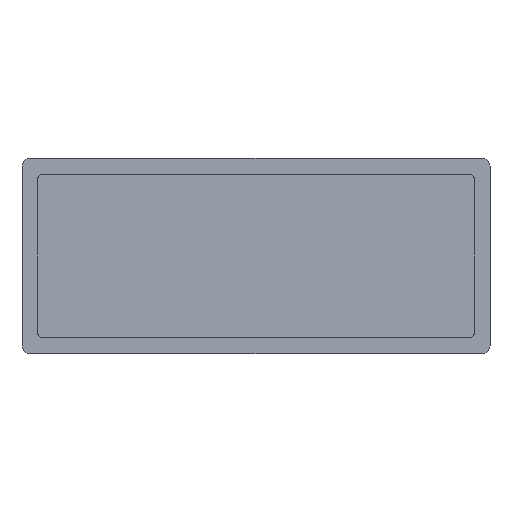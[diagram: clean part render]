
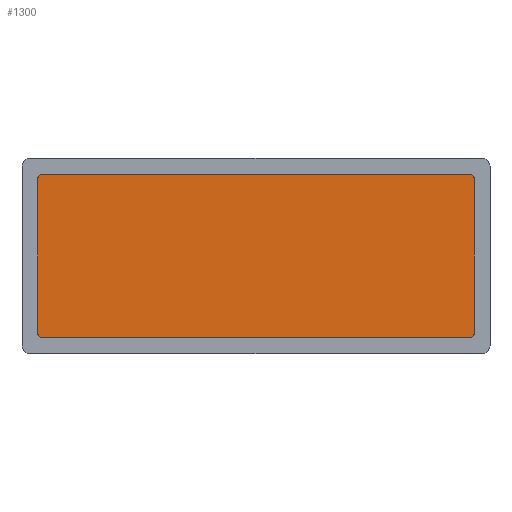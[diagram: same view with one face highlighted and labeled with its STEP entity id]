
A CAD part, left-side view. The second image highlights one B-rep face of the part: STEP entity #1300.
In plain terms, the highlighted planar face has unit normal (-1, 0, 0).
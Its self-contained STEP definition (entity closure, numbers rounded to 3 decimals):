
#355 = CYLINDRICAL_SURFACE('',#356,0.75);
#356 = AXIS2_PLACEMENT_3D('',#357,#358,#359);
#357 = CARTESIAN_POINT('',(-3.4,27.25,5.25));
#358 = DIRECTION('',(1.,0.,0.));
#359 = DIRECTION('',(0.,0.,-1.));
#382 = PLANE('',#383);
#383 = AXIS2_PLACEMENT_3D('',#384,#385,#386);
#384 = CARTESIAN_POINT('',(-3.4,-28.,4.5));
#385 = DIRECTION('',(0.,0.,1.));
#386 = DIRECTION('',(0.,1.,0.));
#410 = CYLINDRICAL_SURFACE('',#411,0.75);
#411 = AXIS2_PLACEMENT_3D('',#412,#413,#414);
#412 = CARTESIAN_POINT('',(-3.4,-27.25,5.25));
#413 = DIRECTION('',(1.,0.,0.));
#414 = DIRECTION('',(0.,0.,-1.));
#437 = PLANE('',#438);
#438 = AXIS2_PLACEMENT_3D('',#439,#440,#441);
#439 = CARTESIAN_POINT('',(-3.4,-28.,25.5));
#440 = DIRECTION('',(-0.,1.,0.));
#441 = DIRECTION('',(0.,0.,-1.));
#465 = CYLINDRICAL_SURFACE('',#466,0.75);
#466 = AXIS2_PLACEMENT_3D('',#467,#468,#469);
#467 = CARTESIAN_POINT('',(-3.4,-27.25,24.75));
#468 = DIRECTION('',(1.,0.,0.));
#469 = DIRECTION('',(0.,-0.,1.));
#492 = PLANE('',#493);
#493 = AXIS2_PLACEMENT_3D('',#494,#495,#496);
#494 = CARTESIAN_POINT('',(-3.4,28.,25.5));
#495 = DIRECTION('',(0.,0.,-1.));
#496 = DIRECTION('',(0.,-1.,0.));
#520 = CYLINDRICAL_SURFACE('',#521,0.75);
#521 = AXIS2_PLACEMENT_3D('',#522,#523,#524);
#522 = CARTESIAN_POINT('',(-3.4,27.25,24.75));
#523 = DIRECTION('',(1.,0.,0.));
#524 = DIRECTION('',(-0.,1.,0.));
#545 = PLANE('',#546);
#546 = AXIS2_PLACEMENT_3D('',#547,#548,#549);
#547 = CARTESIAN_POINT('',(-3.4,28.,4.5));
#548 = DIRECTION('',(0.,-1.,0.));
#549 = DIRECTION('',(0.,0.,1.));
#900 = VERTEX_POINT('',#901);
#901 = CARTESIAN_POINT('',(-2.5,27.25,4.5));
#924 = VERTEX_POINT('',#925);
#925 = CARTESIAN_POINT('',(-2.5,28.,5.25));
#946 = EDGE_CURVE('',#900,#924,#947,.T.);
#947 = SURFACE_CURVE('',#948,(#953,#960),.PCURVE_S1.);
#948 = CIRCLE('',#949,0.75);
#949 = AXIS2_PLACEMENT_3D('',#950,#951,#952);
#950 = CARTESIAN_POINT('',(-2.5,27.25,5.25));
#951 = DIRECTION('',(1.,0.,0.));
#952 = DIRECTION('',(-0.,0.,1.));
#953 = PCURVE('',#355,#954);
#954 = DEFINITIONAL_REPRESENTATION('',(#955),#959);
#955 = LINE('',#956,#957);
#956 = CARTESIAN_POINT('',(-3.142,0.9));
#957 = VECTOR('',#958,1.);
#958 = DIRECTION('',(1.,0.));
#959 = ( GEOMETRIC_REPRESENTATION_CONTEXT(2) 
PARAMETRIC_REPRESENTATION_CONTEXT() REPRESENTATION_CONTEXT('2D SPACE',''
  ) );
#960 = PCURVE('',#961,#966);
#961 = PLANE('',#962);
#962 = AXIS2_PLACEMENT_3D('',#963,#964,#965);
#963 = CARTESIAN_POINT('',(-2.5,0.,15.));
#964 = DIRECTION('',(1.,0.,0.));
#965 = DIRECTION('',(-0.,0.,1.));
#966 = DEFINITIONAL_REPRESENTATION('',(#967),#971);
#967 = CIRCLE('',#968,0.75);
#968 = AXIS2_PLACEMENT_2D('',#969,#970);
#969 = CARTESIAN_POINT('',(-9.75,-27.25));
#970 = DIRECTION('',(1.,0.));
#971 = ( GEOMETRIC_REPRESENTATION_CONTEXT(2) 
PARAMETRIC_REPRESENTATION_CONTEXT() REPRESENTATION_CONTEXT('2D SPACE',''
  ) );
#978 = EDGE_CURVE('',#924,#979,#981,.T.);
#979 = VERTEX_POINT('',#980);
#980 = CARTESIAN_POINT('',(-2.5,28.,24.75));
#981 = SURFACE_CURVE('',#982,(#986,#993),.PCURVE_S1.);
#982 = LINE('',#983,#984);
#983 = CARTESIAN_POINT('',(-2.5,28.,4.5));
#984 = VECTOR('',#985,1.);
#985 = DIRECTION('',(0.,0.,1.));
#986 = PCURVE('',#545,#987);
#987 = DEFINITIONAL_REPRESENTATION('',(#988),#992);
#988 = LINE('',#989,#990);
#989 = CARTESIAN_POINT('',(0.,-0.9));
#990 = VECTOR('',#991,1.);
#991 = DIRECTION('',(1.,0.));
#992 = ( GEOMETRIC_REPRESENTATION_CONTEXT(2) 
PARAMETRIC_REPRESENTATION_CONTEXT() REPRESENTATION_CONTEXT('2D SPACE',''
  ) );
#993 = PCURVE('',#961,#994);
#994 = DEFINITIONAL_REPRESENTATION('',(#995),#999);
#995 = LINE('',#996,#997);
#996 = CARTESIAN_POINT('',(-10.5,-28.));
#997 = VECTOR('',#998,1.);
#998 = DIRECTION('',(1.,0.));
#999 = ( GEOMETRIC_REPRESENTATION_CONTEXT(2) 
PARAMETRIC_REPRESENTATION_CONTEXT() REPRESENTATION_CONTEXT('2D SPACE',''
  ) );
#1028 = VERTEX_POINT('',#1029);
#1029 = CARTESIAN_POINT('',(-2.5,27.25,25.5));
#1050 = EDGE_CURVE('',#979,#1028,#1051,.T.);
#1051 = SURFACE_CURVE('',#1052,(#1057,#1064),.PCURVE_S1.);
#1052 = CIRCLE('',#1053,0.75);
#1053 = AXIS2_PLACEMENT_3D('',#1054,#1055,#1056);
#1054 = CARTESIAN_POINT('',(-2.5,27.25,24.75));
#1055 = DIRECTION('',(1.,0.,0.));
#1056 = DIRECTION('',(-0.,0.,1.));
#1057 = PCURVE('',#520,#1058);
#1058 = DEFINITIONAL_REPRESENTATION('',(#1059),#1063);
#1059 = LINE('',#1060,#1061);
#1060 = CARTESIAN_POINT('',(-4.712,0.9));
#1061 = VECTOR('',#1062,1.);
#1062 = DIRECTION('',(1.,0.));
#1063 = ( GEOMETRIC_REPRESENTATION_CONTEXT(2) 
PARAMETRIC_REPRESENTATION_CONTEXT() REPRESENTATION_CONTEXT('2D SPACE',''
  ) );
#1064 = PCURVE('',#961,#1065);
#1065 = DEFINITIONAL_REPRESENTATION('',(#1066),#1070);
#1066 = CIRCLE('',#1067,0.75);
#1067 = AXIS2_PLACEMENT_2D('',#1068,#1069);
#1068 = CARTESIAN_POINT('',(9.75,-27.25));
#1069 = DIRECTION('',(1.,0.));
#1070 = ( GEOMETRIC_REPRESENTATION_CONTEXT(2) 
PARAMETRIC_REPRESENTATION_CONTEXT() REPRESENTATION_CONTEXT('2D SPACE',''
  ) );
#1077 = EDGE_CURVE('',#1028,#1078,#1080,.T.);
#1078 = VERTEX_POINT('',#1079);
#1079 = CARTESIAN_POINT('',(-2.5,-27.25,25.5));
#1080 = SURFACE_CURVE('',#1081,(#1085,#1092),.PCURVE_S1.);
#1081 = LINE('',#1082,#1083);
#1082 = CARTESIAN_POINT('',(-2.5,28.,25.5));
#1083 = VECTOR('',#1084,1.);
#1084 = DIRECTION('',(0.,-1.,0.));
#1085 = PCURVE('',#492,#1086);
#1086 = DEFINITIONAL_REPRESENTATION('',(#1087),#1091);
#1087 = LINE('',#1088,#1089);
#1088 = CARTESIAN_POINT('',(0.,-0.9));
#1089 = VECTOR('',#1090,1.);
#1090 = DIRECTION('',(1.,0.));
#1091 = ( GEOMETRIC_REPRESENTATION_CONTEXT(2) 
PARAMETRIC_REPRESENTATION_CONTEXT() REPRESENTATION_CONTEXT('2D SPACE',''
  ) );
#1092 = PCURVE('',#961,#1093);
#1093 = DEFINITIONAL_REPRESENTATION('',(#1094),#1098);
#1094 = LINE('',#1095,#1096);
#1095 = CARTESIAN_POINT('',(10.5,-28.));
#1096 = VECTOR('',#1097,1.);
#1097 = DIRECTION('',(0.,1.));
#1098 = ( GEOMETRIC_REPRESENTATION_CONTEXT(2) 
PARAMETRIC_REPRESENTATION_CONTEXT() REPRESENTATION_CONTEXT('2D SPACE',''
  ) );
#1127 = VERTEX_POINT('',#1128);
#1128 = CARTESIAN_POINT('',(-2.5,-28.,24.75));
#1149 = EDGE_CURVE('',#1078,#1127,#1150,.T.);
#1150 = SURFACE_CURVE('',#1151,(#1156,#1163),.PCURVE_S1.);
#1151 = CIRCLE('',#1152,0.75);
#1152 = AXIS2_PLACEMENT_3D('',#1153,#1154,#1155);
#1153 = CARTESIAN_POINT('',(-2.5,-27.25,24.75));
#1154 = DIRECTION('',(1.,0.,0.));
#1155 = DIRECTION('',(-0.,0.,1.));
#1156 = PCURVE('',#465,#1157);
#1157 = DEFINITIONAL_REPRESENTATION('',(#1158),#1162);
#1158 = LINE('',#1159,#1160);
#1159 = CARTESIAN_POINT('',(0.,0.9));
#1160 = VECTOR('',#1161,1.);
#1161 = DIRECTION('',(1.,0.));
#1162 = ( GEOMETRIC_REPRESENTATION_CONTEXT(2) 
PARAMETRIC_REPRESENTATION_CONTEXT() REPRESENTATION_CONTEXT('2D SPACE',''
  ) );
#1163 = PCURVE('',#961,#1164);
#1164 = DEFINITIONAL_REPRESENTATION('',(#1165),#1169);
#1165 = CIRCLE('',#1166,0.75);
#1166 = AXIS2_PLACEMENT_2D('',#1167,#1168);
#1167 = CARTESIAN_POINT('',(9.75,27.25));
#1168 = DIRECTION('',(1.,0.));
#1169 = ( GEOMETRIC_REPRESENTATION_CONTEXT(2) 
PARAMETRIC_REPRESENTATION_CONTEXT() REPRESENTATION_CONTEXT('2D SPACE',''
  ) );
#1176 = EDGE_CURVE('',#1127,#1177,#1179,.T.);
#1177 = VERTEX_POINT('',#1178);
#1178 = CARTESIAN_POINT('',(-2.5,-28.,5.25));
#1179 = SURFACE_CURVE('',#1180,(#1184,#1191),.PCURVE_S1.);
#1180 = LINE('',#1181,#1182);
#1181 = CARTESIAN_POINT('',(-2.5,-28.,25.5));
#1182 = VECTOR('',#1183,1.);
#1183 = DIRECTION('',(0.,0.,-1.));
#1184 = PCURVE('',#437,#1185);
#1185 = DEFINITIONAL_REPRESENTATION('',(#1186),#1190);
#1186 = LINE('',#1187,#1188);
#1187 = CARTESIAN_POINT('',(0.,-0.9));
#1188 = VECTOR('',#1189,1.);
#1189 = DIRECTION('',(1.,0.));
#1190 = ( GEOMETRIC_REPRESENTATION_CONTEXT(2) 
PARAMETRIC_REPRESENTATION_CONTEXT() REPRESENTATION_CONTEXT('2D SPACE',''
  ) );
#1191 = PCURVE('',#961,#1192);
#1192 = DEFINITIONAL_REPRESENTATION('',(#1193),#1197);
#1193 = LINE('',#1194,#1195);
#1194 = CARTESIAN_POINT('',(10.5,28.));
#1195 = VECTOR('',#1196,1.);
#1196 = DIRECTION('',(-1.,0.));
#1197 = ( GEOMETRIC_REPRESENTATION_CONTEXT(2) 
PARAMETRIC_REPRESENTATION_CONTEXT() REPRESENTATION_CONTEXT('2D SPACE',''
  ) );
#1224 = VERTEX_POINT('',#1225);
#1225 = CARTESIAN_POINT('',(-2.5,-27.25,4.5));
#1248 = EDGE_CURVE('',#1224,#1177,#1249,.T.);
#1249 = SURFACE_CURVE('',#1250,(#1255,#1262),.PCURVE_S1.);
#1250 = CIRCLE('',#1251,0.75);
#1251 = AXIS2_PLACEMENT_3D('',#1252,#1253,#1254);
#1252 = CARTESIAN_POINT('',(-2.5,-27.25,5.25));
#1253 = DIRECTION('',(-1.,0.,-0.));
#1254 = DIRECTION('',(-0.,0.,1.));
#1255 = PCURVE('',#410,#1256);
#1256 = DEFINITIONAL_REPRESENTATION('',(#1257),#1261);
#1257 = LINE('',#1258,#1259);
#1258 = CARTESIAN_POINT('',(3.142,0.9));
#1259 = VECTOR('',#1260,1.);
#1260 = DIRECTION('',(-1.,0.));
#1261 = ( GEOMETRIC_REPRESENTATION_CONTEXT(2) 
PARAMETRIC_REPRESENTATION_CONTEXT() REPRESENTATION_CONTEXT('2D SPACE',''
  ) );
#1262 = PCURVE('',#961,#1263);
#1263 = DEFINITIONAL_REPRESENTATION('',(#1264),#1272);
#1264 = ( BOUNDED_CURVE() B_SPLINE_CURVE(2,(#1265,#1266,#1267,#1268,
#1269,#1270,#1271),.UNSPECIFIED.,.T.,.F.) B_SPLINE_CURVE_WITH_KNOTS((1,2
    ,2,2,2,1),(-2.094,0.,2.094,4.189,
6.283,8.378),.UNSPECIFIED.) CURVE() 
GEOMETRIC_REPRESENTATION_ITEM() RATIONAL_B_SPLINE_CURVE((1.,0.5,1.,0.5,
1.,0.5,1.)) REPRESENTATION_ITEM('') );
#1265 = CARTESIAN_POINT('',(-9.,27.25));
#1266 = CARTESIAN_POINT('',(-9.,25.951));
#1267 = CARTESIAN_POINT('',(-10.125,26.6));
#1268 = CARTESIAN_POINT('',(-11.25,27.25));
#1269 = CARTESIAN_POINT('',(-10.125,27.9));
#1270 = CARTESIAN_POINT('',(-9.,28.549));
#1271 = CARTESIAN_POINT('',(-9.,27.25));
#1272 = ( GEOMETRIC_REPRESENTATION_CONTEXT(2) 
PARAMETRIC_REPRESENTATION_CONTEXT() REPRESENTATION_CONTEXT('2D SPACE',''
  ) );
#1279 = EDGE_CURVE('',#1224,#900,#1280,.T.);
#1280 = SURFACE_CURVE('',#1281,(#1285,#1292),.PCURVE_S1.);
#1281 = LINE('',#1282,#1283);
#1282 = CARTESIAN_POINT('',(-2.5,-28.,4.5));
#1283 = VECTOR('',#1284,1.);
#1284 = DIRECTION('',(0.,1.,0.));
#1285 = PCURVE('',#382,#1286);
#1286 = DEFINITIONAL_REPRESENTATION('',(#1287),#1291);
#1287 = LINE('',#1288,#1289);
#1288 = CARTESIAN_POINT('',(0.,-0.9));
#1289 = VECTOR('',#1290,1.);
#1290 = DIRECTION('',(1.,0.));
#1291 = ( GEOMETRIC_REPRESENTATION_CONTEXT(2) 
PARAMETRIC_REPRESENTATION_CONTEXT() REPRESENTATION_CONTEXT('2D SPACE',''
  ) );
#1292 = PCURVE('',#961,#1293);
#1293 = DEFINITIONAL_REPRESENTATION('',(#1294),#1298);
#1294 = LINE('',#1295,#1296);
#1295 = CARTESIAN_POINT('',(-10.5,28.));
#1296 = VECTOR('',#1297,1.);
#1297 = DIRECTION('',(0.,-1.));
#1298 = ( GEOMETRIC_REPRESENTATION_CONTEXT(2) 
PARAMETRIC_REPRESENTATION_CONTEXT() REPRESENTATION_CONTEXT('2D SPACE',''
  ) );
#1300 = ADVANCED_FACE('',(#1301),#961,.F.);
#1301 = FACE_BOUND('',#1302,.F.);
#1302 = EDGE_LOOP('',(#1303,#1304,#1305,#1306,#1307,#1308,#1309,#1310));
#1303 = ORIENTED_EDGE('',*,*,#1279,.T.);
#1304 = ORIENTED_EDGE('',*,*,#946,.T.);
#1305 = ORIENTED_EDGE('',*,*,#978,.T.);
#1306 = ORIENTED_EDGE('',*,*,#1050,.T.);
#1307 = ORIENTED_EDGE('',*,*,#1077,.T.);
#1308 = ORIENTED_EDGE('',*,*,#1149,.T.);
#1309 = ORIENTED_EDGE('',*,*,#1176,.T.);
#1310 = ORIENTED_EDGE('',*,*,#1248,.F.);
